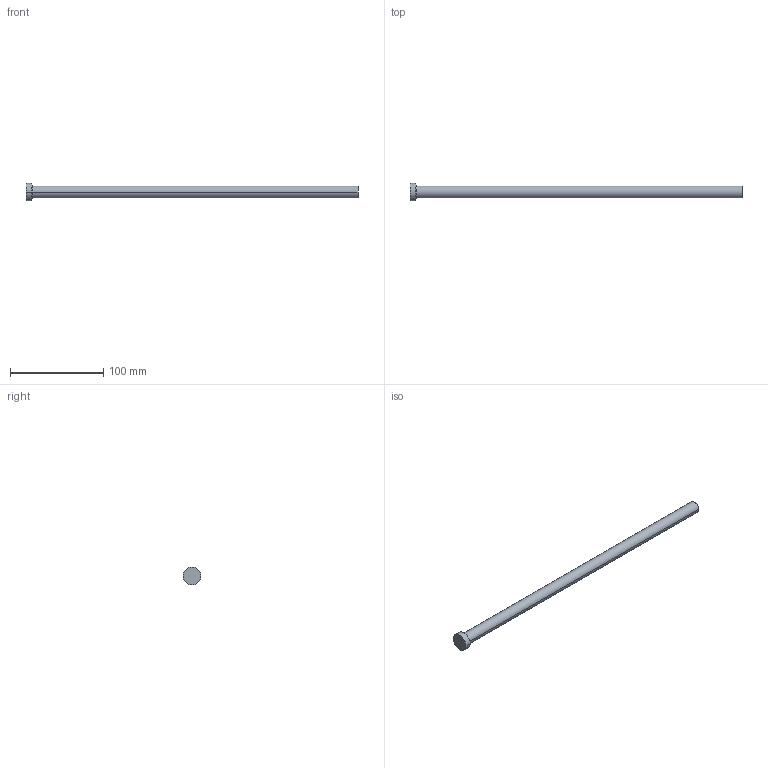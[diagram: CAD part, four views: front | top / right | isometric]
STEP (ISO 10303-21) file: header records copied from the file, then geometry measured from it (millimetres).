
FILE_DESCRIPTION (( 'STEP AP203' ), '1' );
FILE_NAME ('CPH33-14.step', '2014-03-25T00:57:02', ( '' ), ( '' ), 'SwSTEP 2.0', 'SolidWorks 2009', '' );
FILE_SCHEMA (( 'CONFIG_CONTROL_DESIGN' ));
Length unit declared in the file: inch
Products named in the file (1): CPH33-14
Bounding box: 355.6 x 19.05 x 19.05 mm (x, y, z)
Volume: 46057.2 mm3; surface area: 14871.3 mm2
Topology: 1 solids, 1 shells, 9 faces, 16 edges, 10 vertices
Faces by surface type: cylinder 4, plane 3, torus 2
Entity records: 305 total; most frequent: DIRECTION 48, CARTESIAN_POINT 36, ORIENTED_EDGE 32, AXIS2_PLACEMENT_3D 22, EDGE_CURVE 16, CIRCLE 12, VERTEX_POINT 10, EDGE_LOOP 10
